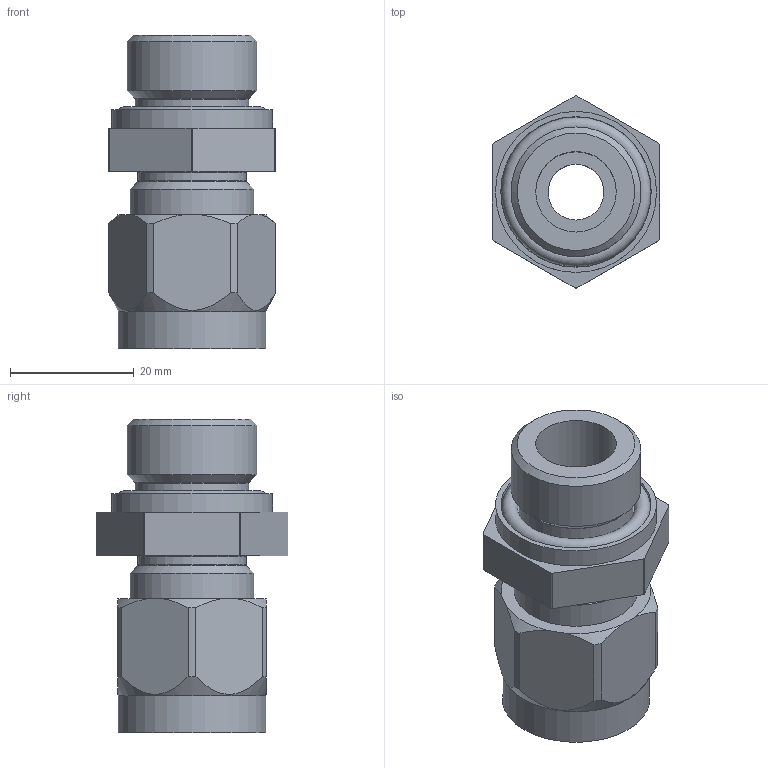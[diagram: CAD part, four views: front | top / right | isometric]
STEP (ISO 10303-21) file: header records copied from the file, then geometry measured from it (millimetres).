
FILE_DESCRIPTION(/* description */ (''),/* implementation_level */ '2;1');
FILE_NAME(/* name */ '517206_03.stp',/* time_stamp */ '2013-07-05T11:47:04+02:00',/* author */ (''),/* organization */ (''),/* preprocessor_version */ 'ST-DEVELOPER v14',/* originating_system */ 'SIEMENS PLM Software NX 8.0',/* authorisation */ '');
FILE_SCHEMA (('AP203_CONFIGURATION_CONTROLLED_3D_DESIGN_OF_MECHANICAL_PARTS_AND_ASSEMBLIES_MIM_LF { 1 0 10303 403 2 1 2}'));
Length unit declared in the file: millimetre
Products named in the file (1): kien10D463AAg626
Bounding box: 27 x 31 x 50.6 mm (x, y, z)
Volume: 15863.2 mm3; surface area: 9468.3 mm2
Topology: 1 solids, 1 shells, 66 faces, 157 edges, 100 vertices
Faces by surface type: cylinder 25, plane 21, cone 15, torus 5
Full cylindrical faces by diameter (mm): 9 x1, 13 x1, 15 x1, 17 x1, 17.5 x1, 18 x1, 18.4 x1, 18.5 x1, 20 x1, 20.96 x1, 23.8 x1, 24.3 x1, 26 x1
Entity records: 1850 total; most frequent: CARTESIAN_POINT 351, DIRECTION 304, ORIENTED_EDGE 248, AXIS2_PLACEMENT_3D 131, EDGE_CURVE 124, EDGE_LOOP 102, VERTEX_POINT 94, FACE_BOUND 72
